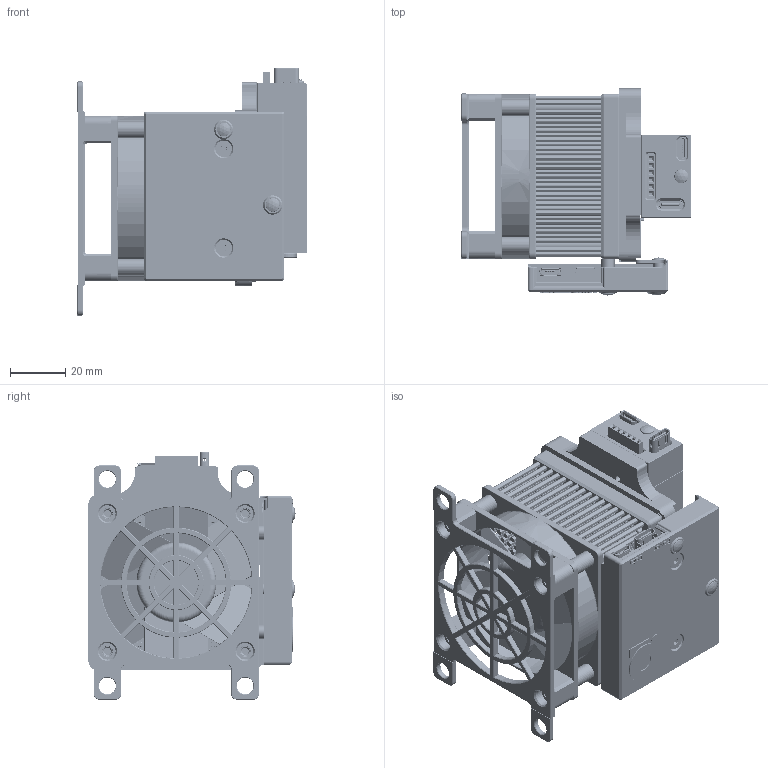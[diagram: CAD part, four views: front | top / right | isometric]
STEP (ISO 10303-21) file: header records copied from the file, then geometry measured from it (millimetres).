
FILE_DESCRIPTION(/* description */ (''),/* implementation_level */ '2;1');
FILE_NAME(/* name */ 'C:/Users/CAD/Desktop/AM-H10 v1.3 Dummy +MB2 + BOB v2.step',/* time_stamp */ '2021-05-05T15:24:28+03:00',/* author */ (''),/* organization */ (''),/* preprocessor_version */ 'ST-DEVELOPER v18.1',/* originating_system */ 'Autodesk Translation Framework v10.6.0.1341',/* authorisation */ '');
FILE_SCHEMA (('AUTOMOTIVE_DESIGN { 1 0 10303 214 3 1 1 }'));
Products named in the file (23): AM-H10 v1.3 Dummy +MB2 + BOB; 46396 v2; standoff_6mm; [Archived] USB-C v1; inner plastic; body steel; contact steel 1; contact steel 2; [Archived] USB-micro; micro usb02; micro usb; PCB_TEC; Board; zx62d-b-5pa8; [M2-01-YY-20] v1.3 Base frame under fan; fh6030a 60x60 radiator; Dummy MB BoB; M3; [Archived] LED_lightguide_PLP5-2-125; Prototype [M1-01-YY-19] v1.6 Elektronikos gaubtas; M4; [M10-01-YY-10] v1.2  AM-H10 TOP PLATE v1; 91263A862_ZINC-PLATED ALLOY STEEL HEX DRIVE FLAT HEAD SCREW
Assembly tree (30 placements, depth 3):
  AM-H10 v1.3 Dummy +MB2 + BOB
    46396 v2
    standoff_6mm  x2
    [Archived] USB-C v1
      inner plastic
      body steel
      contact steel 1
      contact steel 2
    [Archived] USB-micro
      micro usb02
      micro usb
    PCB_TEC
      Board
      zx62d-b-5pa8
    [M2-01-YY-20] v1.3 Base frame under fan
    fh6030a 60x60 radiator
    Dummy MB BoB
    M3  x2
    [Archived] LED_lightguide_PLP5-2-125  x3
    M4  x4
    Prototype [M1-01-YY-19] v1.6 Elektronikos gaubtas
    [M10-01-YY-10] v1.2  AM-H10 TOP PLATE v1
    91263A862_ZINC-PLATED ALLOY STEEL HEX DRIVE FLAT HEAD SCREW  x2
Bounding box: 83.4 x 75.18 x 89.77 mm (x, y, z)
Volume: 153912.2 mm3; surface area: 129055.5 mm2
Topology: 32 solids, 40 shells, 13569 faces, 32425 edges, 19227 vertices
Faces by surface type: cylinder 5120, plane 5090, torus 2507, bspline 562, cone 254, sphere 36
Full cylindrical faces by diameter (mm): 1.5 x1, 1.8 x1, 1.915 x39, 2 x1, 2.075 x7, 2.35 x30, 2.43 x3, 2.529 x16, 2.6 x2, 3 x34, 3.086 x8, 3.091 x24, 3.1 x2, 3.332 x4, 3.4 x2, 3.7 x6, 3.9 x4, 4 x29, 4.05 x3, 4.1 x1, 5 x11, 5.1 x1, 5.25 x2, 5.3 x4, 5.5 x1, 5.9 x1, 6 x11, 6.1 x4, 7 x2, 8 x5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
Entity records: 455857 total; most frequent: CARTESIAN_POINT 147543, DIRECTION 64815, ORIENTED_EDGE 63617, EDGE_CURVE 31836, AXIS2_PLACEMENT_3D 24056, VERTEX_POINT 18892, LINE 16703, VECTOR 16703
